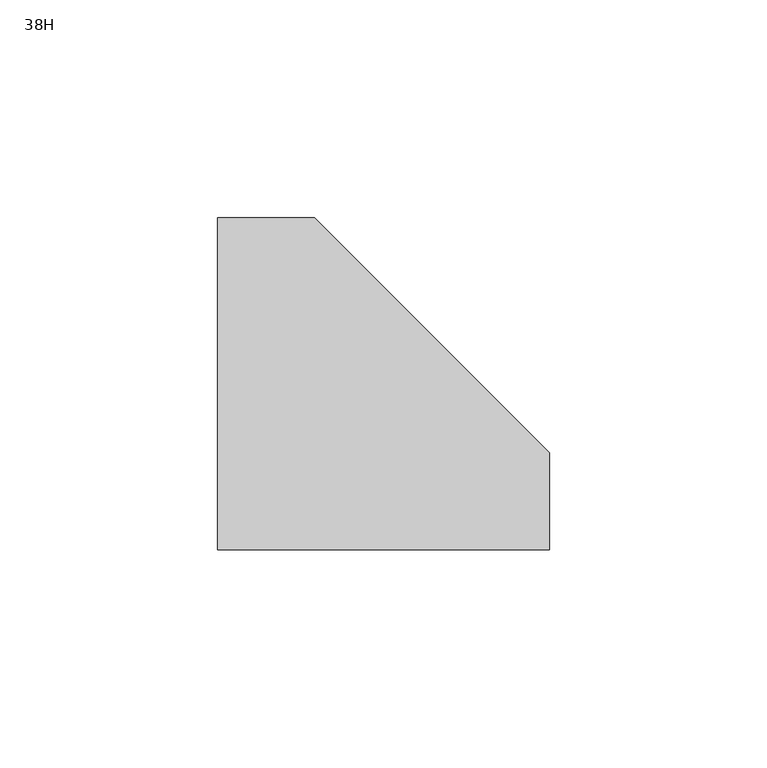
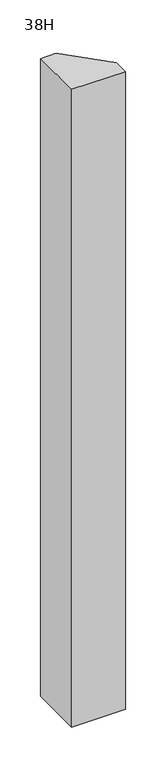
"""IFC4 building model written with IfcOpenShell, lengths in millimetres: furniture geometry, Steelcase - Montage - Junction - Y - Same-Height : 38H."""

from ifc_helpers import new_model, si_unit, frame, origin, place, context, project, spatial, polyline, outline, extrude, source, transform, mapped, element, save


def furniture_38h_f6beeae2(model_context):
    return source(origin(), model_context, "Body", "SweptSolid", [
        extrude(outline(polyline([(457.2, -38.1000015), (457.2, 38.1000015), (479.424997, 38.1000015), (533.4, -15.8750015), (533.4, -38.1000015), (457.2, -38.1000015)])), frame((0.0, 0.0, 3.9624), z_axis=(0.0, 0.0, 1.0), x_axis=(1.0, 0.0, 0.0)), (0.0, 0.0, 1.0), 954.8876),
    ])


if __name__ == "__main__":
    model = new_model("IFC4")
    model_context = context("Model", 3, world=origin())
    ifc_project = project(units=[si_unit("LENGTHUNIT", "METRE", prefix="MILLI")], contexts=[model_context])
    site = spatial("IfcSite", under=ifc_project)
    building = spatial("IfcBuilding", under=site)
    placement = place(None, origin())
    furniture_38h_shape = furniture_38h_f6beeae2(model_context)
    element("IfcFurniture", 1, ObjectType="Steelcase - Montage - Junction - Y - Same-Height : 38H", at=placement, inside=building, context=model_context, shape_type="MappedRepresentation", body=[
        mapped(furniture_38h_shape, transform((0.0, 0.0, 0.0), x_axis=(1.0, 0.0, 0.0), y_axis=(0.0, 1.0, 0.0), z_axis=(0.0, 0.0, 1.0))),
    ])
    save(model, "model.ifc")
